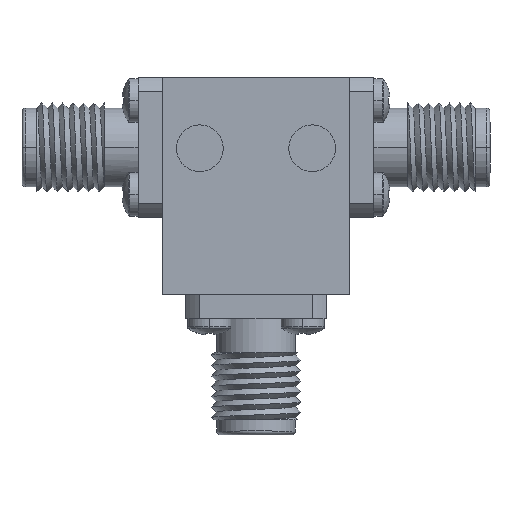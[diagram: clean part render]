
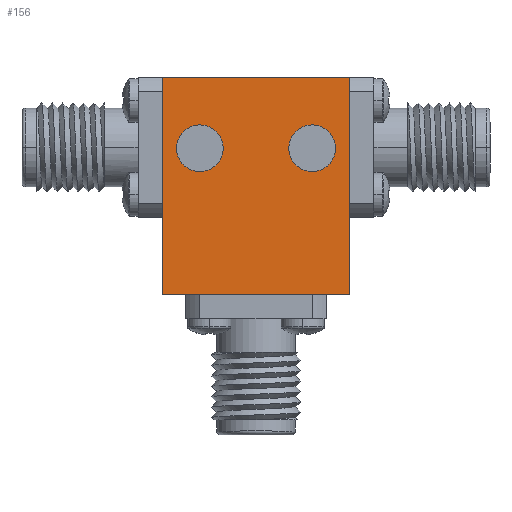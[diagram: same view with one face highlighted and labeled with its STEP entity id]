
A CAD part, top view. The second image highlights one B-rep face of the part: STEP entity #156.
In plain terms, the highlighted planar face has unit normal (0, 0, 1).
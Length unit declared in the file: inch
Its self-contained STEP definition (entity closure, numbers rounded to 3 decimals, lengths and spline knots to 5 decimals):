
#24 = AXIS2_PLACEMENT_3D ( 'NONE', #2069, #398, #131 ) ;
#68 = CIRCLE ( 'NONE', #1063, 0.0625 ) ;
#80 = LINE ( 'NONE', #2402, #571 ) ;
#89 = EDGE_CURVE ( 'NONE', #2300, #2343, #488, .T. ) ;
#127 = EDGE_LOOP ( 'NONE', ( #1692, #2390, #1726, #751 ) ) ;
#131 = DIRECTION ( 'NONE',  ( 1., 0., 0. ) ) ;
#142 = EDGE_LOOP ( 'NONE', ( #3240, #1408 ) ) ;
#156 = ADVANCED_FACE ( 'NONE', ( #579, #621, #3540 ), #1827, .T. ) ;
#261 = EDGE_CURVE ( 'NONE', #2343, #1725, #3150, .T. ) ;
#398 = DIRECTION ( 'NONE',  ( 0., 0., 1. ) ) ;
#401 = DIRECTION ( 'NONE',  ( 1., 0., 0. ) ) ;
#488 = LINE ( 'NONE', #3462, #1727 ) ;
#542 = CARTESIAN_POINT ( 'NONE',  ( -0.25, 0.29, 0.19 ) ) ;
#571 = VECTOR ( 'NONE', #401, 39.37008 ) ;
#579 = FACE_BOUND ( 'NONE', #3104, .T. ) ;
#591 = EDGE_CURVE ( 'NONE', #2968, #1510, #1070, .T. ) ;
#621 = FACE_BOUND ( 'NONE', #142, .T. ) ;
#629 = CARTESIAN_POINT ( 'NONE',  ( 0.25, -0.29, 0.19 ) ) ;
#751 = ORIENTED_EDGE ( 'NONE', *, *, #1049, .T. ) ;
#767 = CARTESIAN_POINT ( 'NONE',  ( 0.15, 0.1, 0.19 ) ) ;
#923 = CARTESIAN_POINT ( 'NONE',  ( -0.0875, 0.1, 0.19 ) ) ;
#1037 = DIRECTION ( 'NONE',  ( -1., 0., 0. ) ) ;
#1049 = EDGE_CURVE ( 'NONE', #3192, #2300, #80, .T. ) ;
#1060 = VERTEX_POINT ( 'NONE', #1842 ) ;
#1063 = AXIS2_PLACEMENT_3D ( 'NONE', #767, #2466, #2739 ) ;
#1070 = CIRCLE ( 'NONE', #1079, 0.0625 ) ;
#1079 = AXIS2_PLACEMENT_3D ( 'NONE', #3387, #2809, #1398 ) ;
#1237 = ORIENTED_EDGE ( 'NONE', *, *, #2045, .F. ) ;
#1298 = CARTESIAN_POINT ( 'NONE',  ( -0.25, 0.29, 0.19 ) ) ;
#1398 = DIRECTION ( 'NONE',  ( 1., 0., 0. ) ) ;
#1408 = ORIENTED_EDGE ( 'NONE', *, *, #2679, .F. ) ;
#1411 = CIRCLE ( 'NONE', #3414, 0.0625 ) ;
#1489 = EDGE_CURVE ( 'NONE', #1987, #1060, #1411, .T. ) ;
#1510 = VERTEX_POINT ( 'NONE', #2014 ) ;
#1640 = CARTESIAN_POINT ( 'NONE',  ( 0.0875, 0.1, 0.19 ) ) ;
#1692 = ORIENTED_EDGE ( 'NONE', *, *, #89, .T. ) ;
#1725 = VERTEX_POINT ( 'NONE', #3269 ) ;
#1726 = ORIENTED_EDGE ( 'NONE', *, *, #2754, .T. ) ;
#1727 = VECTOR ( 'NONE', #2360, 39.37008 ) ;
#1766 = CARTESIAN_POINT ( 'NONE',  ( 0.25, 0.29, 0.19 ) ) ;
#1827 = PLANE ( 'NONE',  #24 ) ;
#1842 = CARTESIAN_POINT ( 'NONE',  ( 0.2125, 0.1, 0.19 ) ) ;
#1987 = VERTEX_POINT ( 'NONE', #1640 ) ;
#2007 = AXIS2_PLACEMENT_3D ( 'NONE', #3070, #2808, #2246 ) ;
#2014 = CARTESIAN_POINT ( 'NONE',  ( -0.2125, 0.1, 0.19 ) ) ;
#2045 = EDGE_CURVE ( 'NONE', #1060, #1987, #68, .T. ) ;
#2052 = CARTESIAN_POINT ( 'NONE',  ( -0.25, -0.29, 0.19 ) ) ;
#2069 = CARTESIAN_POINT ( 'NONE',  ( 0., 0., 0.19 ) ) ;
#2246 = DIRECTION ( 'NONE',  ( 1., 0., 0. ) ) ;
#2253 = VECTOR ( 'NONE', #3349, 39.37008 ) ;
#2258 = ORIENTED_EDGE ( 'NONE', *, *, #1489, .F. ) ;
#2300 = VERTEX_POINT ( 'NONE', #629 ) ;
#2343 = VERTEX_POINT ( 'NONE', #1766 ) ;
#2357 = DIRECTION ( 'NONE',  ( 1., 0., 0. ) ) ;
#2360 = DIRECTION ( 'NONE',  ( 0., 1., 0. ) ) ;
#2390 = ORIENTED_EDGE ( 'NONE', *, *, #261, .T. ) ;
#2402 = CARTESIAN_POINT ( 'NONE',  ( -0.25, -0.29, 0.19 ) ) ;
#2466 = DIRECTION ( 'NONE',  ( 0., 0., 1. ) ) ;
#2679 = EDGE_CURVE ( 'NONE', #1510, #2968, #2728, .T. ) ;
#2728 = CIRCLE ( 'NONE', #2007, 0.0625 ) ;
#2739 = DIRECTION ( 'NONE',  ( 1., 0., 0. ) ) ;
#2754 = EDGE_CURVE ( 'NONE', #1725, #3192, #3392, .T. ) ;
#2808 = DIRECTION ( 'NONE',  ( 0., 0., 1. ) ) ;
#2809 = DIRECTION ( 'NONE',  ( 0., 0., 1. ) ) ;
#2968 = VERTEX_POINT ( 'NONE', #923 ) ;
#3070 = CARTESIAN_POINT ( 'NONE',  ( -0.15, 0.1, 0.19 ) ) ;
#3104 = EDGE_LOOP ( 'NONE', ( #1237, #2258 ) ) ;
#3150 = LINE ( 'NONE', #1298, #3498 ) ;
#3192 = VERTEX_POINT ( 'NONE', #2052 ) ;
#3240 = ORIENTED_EDGE ( 'NONE', *, *, #591, .F. ) ;
#3269 = CARTESIAN_POINT ( 'NONE',  ( -0.25, 0.29, 0.19 ) ) ;
#3349 = DIRECTION ( 'NONE',  ( 0., -1., 0. ) ) ;
#3387 = CARTESIAN_POINT ( 'NONE',  ( -0.15, 0.1, 0.19 ) ) ;
#3392 = LINE ( 'NONE', #542, #2253 ) ;
#3414 = AXIS2_PLACEMENT_3D ( 'NONE', #3450, #3486, #2357 ) ;
#3450 = CARTESIAN_POINT ( 'NONE',  ( 0.15, 0.1, 0.19 ) ) ;
#3462 = CARTESIAN_POINT ( 'NONE',  ( 0.25, 0.29, 0.19 ) ) ;
#3486 = DIRECTION ( 'NONE',  ( 0., 0., 1. ) ) ;
#3498 = VECTOR ( 'NONE', #1037, 39.37008 ) ;
#3540 = FACE_OUTER_BOUND ( 'NONE', #127, .T. ) ;
